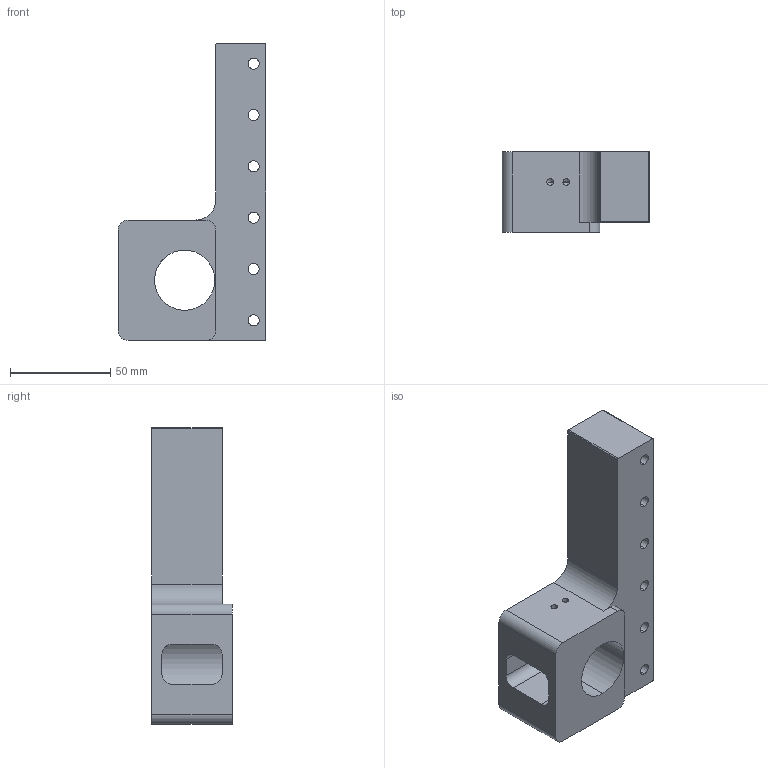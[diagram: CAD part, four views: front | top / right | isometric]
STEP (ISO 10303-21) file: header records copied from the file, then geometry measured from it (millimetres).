
FILE_DESCRIPTION (( 'STEP AP214' ), '1' );
FILE_NAME ('Pos.5 Motorhalter_rechts.STEP', '2017-03-12T09:13:54', ( 'C.Loibl@hotmail.com' ), ( '' ), 'SwSTEP 2.0', 'SolidWorks 2015', '' );
FILE_SCHEMA (( 'AUTOMOTIVE_DESIGN' ));
Length unit declared in the file: millimetre
Products named in the file (1): Pos.5 Motorhalter_rechts
Bounding box: 73.7 x 40 x 148 mm (x, y, z)
Volume: 198701.6 mm3; surface area: 37412.4 mm2
Topology: 1 solids, 1 shells, 85 faces, 216 edges, 134 vertices
Faces by surface type: cylinder 52, plane 21, cone 12
Entity records: 2778 total; most frequent: CARTESIAN_POINT 500, DIRECTION 474, ORIENTED_EDGE 408, EDGE_CURVE 204, AXIS2_PLACEMENT_3D 188, VERTEX_POINT 134, EDGE_LOOP 114, CIRCLE 102
